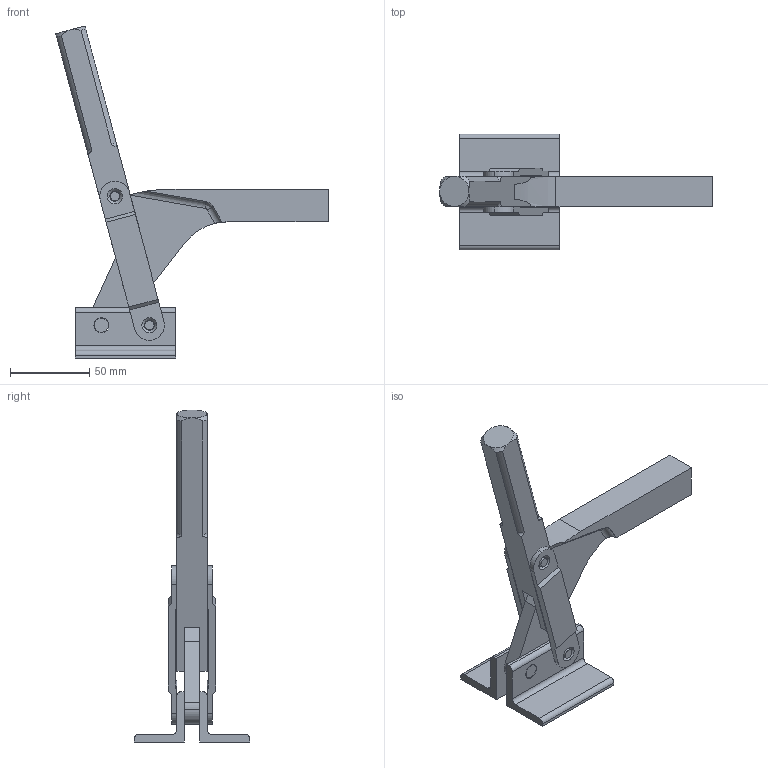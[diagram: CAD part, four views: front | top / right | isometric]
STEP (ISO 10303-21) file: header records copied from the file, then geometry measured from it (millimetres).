
FILE_DESCRIPTION( ( '' ), '1' );
FILE_NAME( 'C:\Documents and Settings\Richard Grenzke\My Documents\Wolverine Company Data\WOLVERINE CD 5_17_05\SOLIDS STEP\hold_down\c110a.stp', ' ', ( '' ), ( '' ), 'ACIS Interop R16', 'Kubotek KeyCreator V5.5.1 (0454)', ' ' );
FILE_SCHEMA( ( 'CONFIG_CONTROL_DESIGN' ) );
Length unit declared in the file: inch
Products named in the file (14): 1; 2; 3; 4; 5; 6; 7; 8; 9; 10; 11; 12; 13; 14
Bounding box: 171.65 x 73.03 x 209.13 mm (x, y, z)
Volume: 165800.4 mm3; surface area: 58922 mm2
Topology: 13 solids, 13 shells, 177 faces, 471 edges, 320 vertices
Faces by surface type: plane 83, cylinder 68, cone 20, torus 4, bspline 2
Entity records: 6394 total; most frequent: CARTESIAN_POINT 1150, DIRECTION 1025, ORIENTED_EDGE 942, EDGE_CURVE 471, AXIS2_PLACEMENT_3D 387, VERTEX_POINT 320, LINE 251, VECTOR 251
